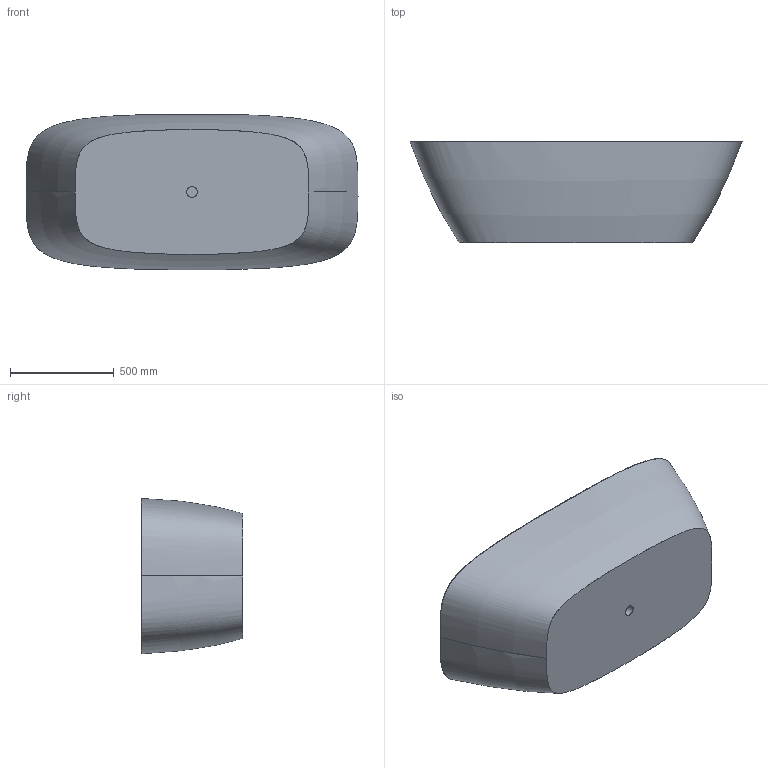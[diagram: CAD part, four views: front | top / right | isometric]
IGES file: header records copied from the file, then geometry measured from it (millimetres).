
Start section: SolidWorks IGES file using analytic representation for surfaces
Global section: file name: D:\Users\M.Szymanski\Desktop\Wanny\LaSenia\03. do przegrania\44\WP_LaSENIA_75x160x44.IGS; native system: SolidWorks 2011; preprocessor: SolidWorks 2011; author: M.Szymanski; date: 180530.111741; units: millimetre
Bounding box: 1599.5 x 490 x 749.82 mm (x, y, z)
Surface area: 4760524.3 mm2 (no closed solid volume)
Topology: 0 solids, 0 shells, 49 faces, 1391 edges, 1390 vertices
Faces by surface type: bspline 37, revolution 12
